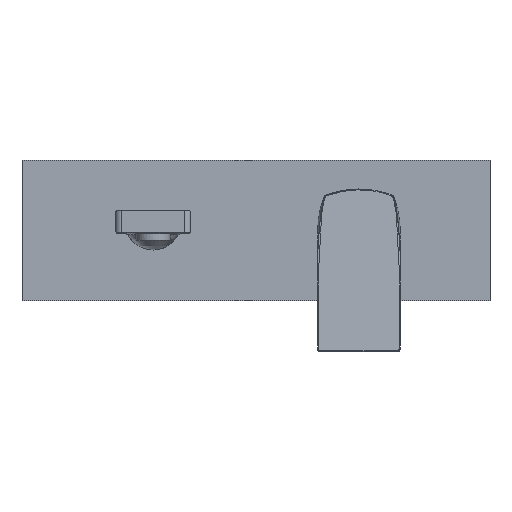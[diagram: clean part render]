
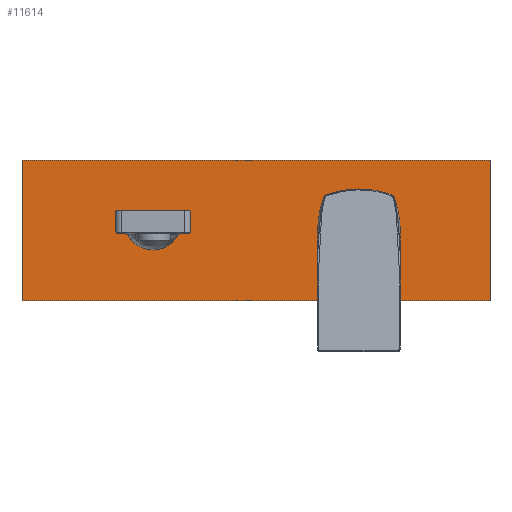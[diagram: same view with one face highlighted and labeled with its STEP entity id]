
A CAD part, top view. The second image highlights one B-rep face of the part: STEP entity #11614.
In plain terms, the highlighted planar face has unit normal (0, 0, 1).
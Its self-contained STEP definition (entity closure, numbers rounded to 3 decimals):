
#3697=DIRECTION('',(0.,-1.,0.));
#3698=VECTOR('',#3697,75.);
#3699=CARTESIAN_POINT('',(-182.,37.5,45.7));
#3700=LINE('',#3699,#3698);
#3701=DIRECTION('',(-1.,0.,0.));
#3702=VECTOR('',#3701,250.);
#3703=CARTESIAN_POINT('',(68.,37.5,45.7));
#3704=LINE('',#3703,#3702);
#3705=DIRECTION('',(0.,1.,0.));
#3706=VECTOR('',#3705,75.);
#3707=CARTESIAN_POINT('',(68.,-37.5,45.7));
#3708=LINE('',#3707,#3706);
#3709=DIRECTION('',(1.,0.,0.));
#3710=VECTOR('',#3709,250.);
#3711=CARTESIAN_POINT('',(-182.,-37.5,45.7));
#3712=LINE('',#3711,#3710);
#3713=CARTESIAN_POINT('',(-2.,0.,45.7));
#3714=DIRECTION('',(0.,0.,1.));
#3715=DIRECTION('',(1.,0.,0.));
#3716=AXIS2_PLACEMENT_3D('',#3713,#3714,#3715);
#3718=CARTESIAN_POINT('',(-2.,0.,45.7));
#3719=DIRECTION('',(0.,0.,1.));
#3720=DIRECTION('',(-1.,0.,0.));
#3721=AXIS2_PLACEMENT_3D('',#3718,#3719,#3720);
#3723=DIRECTION('',(0.,-1.,0.));
#3724=VECTOR('',#3723,9.);
#3725=CARTESIAN_POINT('',(-92.,9.,45.7));
#3726=LINE('',#3725,#3724);
#3727=CARTESIAN_POINT('',(-112.,4.5,45.7));
#3728=DIRECTION('',(0.,0.,-1.));
#3729=DIRECTION('',(0.956,0.293,0.));
#3730=AXIS2_PLACEMENT_3D('',#3727,#3728,#3729);
#3732=DIRECTION('',(1.,0.,0.));
#3733=VECTOR('',#3732,39.205);
#3734=CARTESIAN_POINT('',(-131.602,10.5,45.7));
#3735=LINE('',#3734,#3733);
#3736=CARTESIAN_POINT('',(-112.,4.5,45.7));
#3737=DIRECTION('',(0.,0.,-1.));
#3738=DIRECTION('',(-0.976,0.22,0.));
#3739=AXIS2_PLACEMENT_3D('',#3736,#3737,#3738);
#3741=DIRECTION('',(0.,1.,0.));
#3742=VECTOR('',#3741,9.);
#3743=CARTESIAN_POINT('',(-132.,0.,45.7));
#3744=LINE('',#3743,#3742);
#3745=CARTESIAN_POINT('',(-112.,4.5,45.7));
#3746=DIRECTION('',(0.,0.,-1.));
#3747=DIRECTION('',(-0.956,-0.293,0.));
#3748=AXIS2_PLACEMENT_3D('',#3745,#3746,#3747);
#3750=DIRECTION('',(-1.,0.,0.));
#3751=VECTOR('',#3750,4.922);
#3752=CARTESIAN_POINT('',(-126.68,-1.5,45.7));
#3753=LINE('',#3752,#3751);
#3754=DIRECTION('',(-0.819,0.574,0.));
#3755=VECTOR('',#3754,1.715);
#3756=CARTESIAN_POINT('',(-125.275,-2.484,45.7));
#3757=LINE('',#3756,#3755);
#3758=CARTESIAN_POINT('',(-125.275,-2.484,45.7));
#3759=CARTESIAN_POINT('',(-124.432,-4.086,45.7));
#3760=CARTESIAN_POINT('',(-122.159,-6.982,45.7));
#3761=CARTESIAN_POINT('',(-117.432,-9.837,45.7));
#3762=CARTESIAN_POINT('',(-113.811,-10.5,45.7));
#3763=CARTESIAN_POINT('',(-112.,-10.5,45.7));
#3765=CARTESIAN_POINT('',(-112.,-10.5,45.7));
#3766=CARTESIAN_POINT('',(-110.189,-10.5,45.7));
#3767=CARTESIAN_POINT('',(-106.568,-9.837,45.7));
#3768=CARTESIAN_POINT('',(-101.841,-6.982,45.7));
#3769=CARTESIAN_POINT('',(-99.568,-4.086,45.7));
#3770=CARTESIAN_POINT('',(-98.725,-2.484,45.7));
#3772=DIRECTION('',(-0.819,-0.574,0.));
#3773=VECTOR('',#3772,1.715);
#3774=CARTESIAN_POINT('',(-97.32,-1.5,45.7));
#3775=LINE('',#3774,#3773);
#3776=DIRECTION('',(-1.,0.,0.));
#3777=VECTOR('',#3776,4.922);
#3778=CARTESIAN_POINT('',(-92.398,-1.5,45.7));
#3779=LINE('',#3778,#3777);
#3780=CARTESIAN_POINT('',(-112.,4.5,45.7));
#3781=DIRECTION('',(0.,0.,-1.));
#3782=DIRECTION('',(0.976,-0.22,0.));
#3783=AXIS2_PLACEMENT_3D('',#3780,#3781,#3782);
#8941=CARTESIAN_POINT('',(-182.,-37.5,45.7));
#8942=CARTESIAN_POINT('',(68.,-37.5,45.7));
#8943=VERTEX_POINT('',#8941);
#8944=VERTEX_POINT('',#8942);
#8945=CARTESIAN_POINT('',(68.,37.5,45.7));
#8946=CARTESIAN_POINT('',(-182.,37.5,45.7));
#8947=VERTEX_POINT('',#8945);
#8948=VERTEX_POINT('',#8946);
#8957=CARTESIAN_POINT('',(18.25,0.,45.7));
#8958=CARTESIAN_POINT('',(-22.25,0.,45.7));
#8959=VERTEX_POINT('',#8957);
#8960=VERTEX_POINT('',#8958);
#9189=CARTESIAN_POINT('',(-92.,9.,45.7));
#9190=CARTESIAN_POINT('',(-92.,0.,45.7));
#9191=VERTEX_POINT('',#9189);
#9192=VERTEX_POINT('',#9190);
#9193=CARTESIAN_POINT('',(-92.398,-1.5,45.7));
#9194=CARTESIAN_POINT('',(-97.32,-1.5,45.7));
#9195=VERTEX_POINT('',#9193);
#9196=VERTEX_POINT('',#9194);
#9197=CARTESIAN_POINT('',(-126.68,-1.5,45.7));
#9198=CARTESIAN_POINT('',(-131.602,-1.5,45.7));
#9199=VERTEX_POINT('',#9197);
#9200=VERTEX_POINT('',#9198);
#9201=CARTESIAN_POINT('',(-132.,0.,45.7));
#9202=CARTESIAN_POINT('',(-132.,9.,45.7));
#9203=VERTEX_POINT('',#9201);
#9204=VERTEX_POINT('',#9202);
#9205=CARTESIAN_POINT('',(-131.602,10.5,45.7));
#9206=CARTESIAN_POINT('',(-92.398,10.5,45.7));
#9207=VERTEX_POINT('',#9205);
#9208=VERTEX_POINT('',#9206);
#9209=VERTEX_POINT('',#3765);
#9210=VERTEX_POINT('',#3770);
#9211=VERTEX_POINT('',#3758);
#11569=CARTESIAN_POINT('',(-57.,0.,45.7));
#11570=DIRECTION('',(0.,0.,1.));
#11571=DIRECTION('',(1.,0.,0.));
#11572=AXIS2_PLACEMENT_3D('',#11569,#11570,#11571);
#11573=PLANE('',#11572);
#11574=ORIENTED_EDGE('',*,*,#11521,.F.);
#11575=ORIENTED_EDGE('',*,*,#11536,.F.);
#11576=ORIENTED_EDGE('',*,*,#11550,.F.);
#11577=ORIENTED_EDGE('',*,*,#11563,.F.);
#11578=EDGE_LOOP('',(#11574,#11575,#11576,#11577));
#11579=FACE_OUTER_BOUND('',#11578,.F.);
#11581=ORIENTED_EDGE('',*,*,#11580,.T.);
#11583=ORIENTED_EDGE('',*,*,#11582,.T.);
#11584=EDGE_LOOP('',(#11581,#11583));
#11585=FACE_BOUND('',#11584,.F.);
#11587=ORIENTED_EDGE('',*,*,#11586,.F.);
#11589=ORIENTED_EDGE('',*,*,#11588,.F.);
#11591=ORIENTED_EDGE('',*,*,#11590,.F.);
#11593=ORIENTED_EDGE('',*,*,#11592,.F.);
#11595=ORIENTED_EDGE('',*,*,#11594,.F.);
#11597=ORIENTED_EDGE('',*,*,#11596,.F.);
#11599=ORIENTED_EDGE('',*,*,#11598,.F.);
#11601=ORIENTED_EDGE('',*,*,#11600,.F.);
#11603=ORIENTED_EDGE('',*,*,#11602,.T.);
#11605=ORIENTED_EDGE('',*,*,#11604,.T.);
#11607=ORIENTED_EDGE('',*,*,#11606,.F.);
#11609=ORIENTED_EDGE('',*,*,#11608,.F.);
#11611=ORIENTED_EDGE('',*,*,#11610,.F.);
#11612=EDGE_LOOP('',(#11587,#11589,#11591,#11593,#11595,#11597,#11599,#11601,
#11603,#11605,#11607,#11609,#11611));
#11613=FACE_BOUND('',#11612,.F.);
#11614=ADVANCED_FACE('',(#11579,#11585,#11613),#11573,.T.);
#3717=CIRCLE('',#3716,20.25);
#3722=CIRCLE('',#3721,20.25);
#3731=CIRCLE('',#3730,20.5);
#3740=CIRCLE('',#3739,20.5);
#3749=CIRCLE('',#3748,20.5);
#3764=B_SPLINE_CURVE_WITH_KNOTS('',3,(#3758,#3759,#3760,#3761,#3762,#3763),
.UNSPECIFIED.,.F.,.F.,(4,1,1,4),(0.,0.333,0.667,1.),
.UNSPECIFIED.);
#3771=B_SPLINE_CURVE_WITH_KNOTS('',3,(#3765,#3766,#3767,#3768,#3769,#3770),
.UNSPECIFIED.,.F.,.F.,(4,1,1,4),(0.,0.333,0.667,1.),
.UNSPECIFIED.);
#3784=CIRCLE('',#3783,20.5);
#11521=EDGE_CURVE('',#8948,#8943,#3700,.T.);
#11536=EDGE_CURVE('',#8947,#8948,#3704,.T.);
#11550=EDGE_CURVE('',#8944,#8947,#3708,.T.);
#11563=EDGE_CURVE('',#8943,#8944,#3712,.T.);
#11580=EDGE_CURVE('',#8959,#8960,#3717,.T.);
#11582=EDGE_CURVE('',#8960,#8959,#3722,.T.);
#11586=EDGE_CURVE('',#9191,#9192,#3726,.T.);
#11588=EDGE_CURVE('',#9208,#9191,#3731,.T.);
#11590=EDGE_CURVE('',#9207,#9208,#3735,.T.);
#11592=EDGE_CURVE('',#9204,#9207,#3740,.T.);
#11594=EDGE_CURVE('',#9203,#9204,#3744,.T.);
#11596=EDGE_CURVE('',#9200,#9203,#3749,.T.);
#11598=EDGE_CURVE('',#9199,#9200,#3753,.T.);
#11600=EDGE_CURVE('',#9211,#9199,#3757,.T.);
#11602=EDGE_CURVE('',#9211,#9209,#3764,.T.);
#11604=EDGE_CURVE('',#9209,#9210,#3771,.T.);
#11606=EDGE_CURVE('',#9196,#9210,#3775,.T.);
#11608=EDGE_CURVE('',#9195,#9196,#3779,.T.);
#11610=EDGE_CURVE('',#9192,#9195,#3784,.T.);
